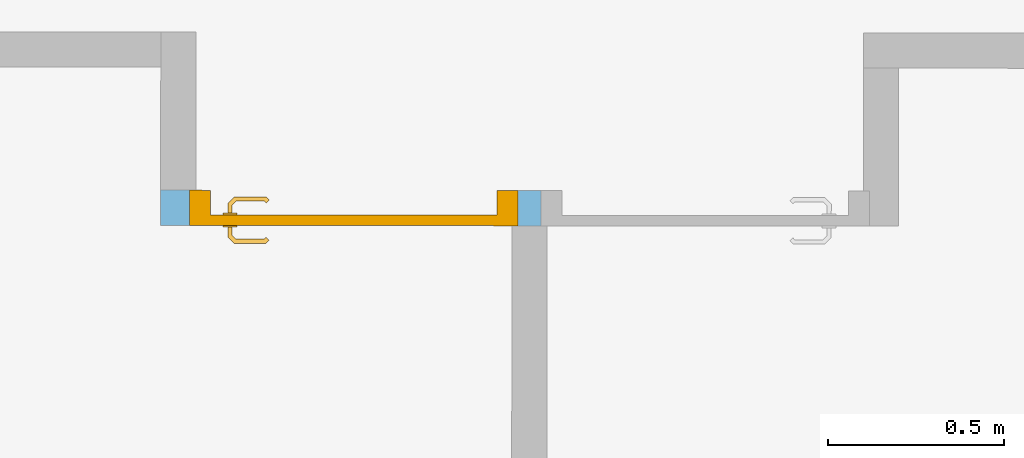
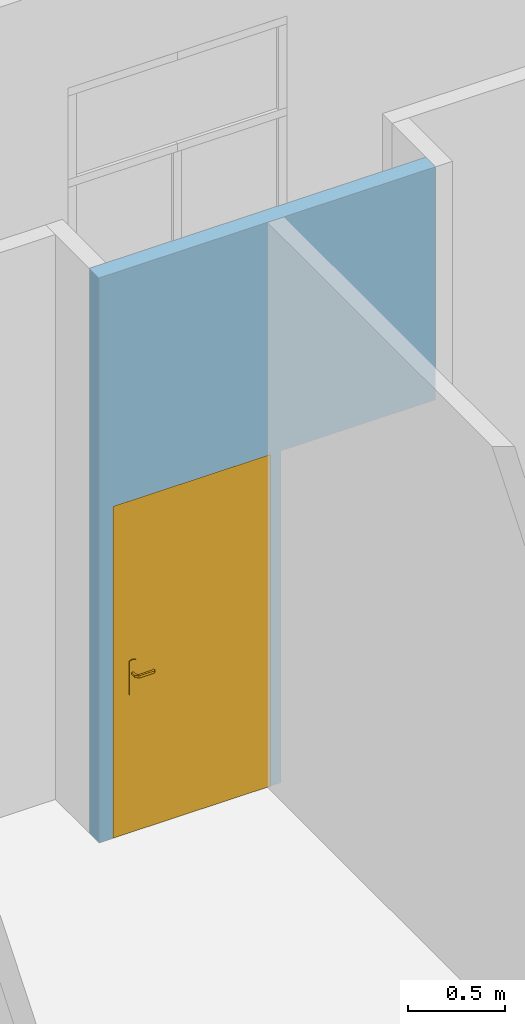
# One storey, part 57 of 101: 1 door, 2 openings, plus 1 element that does not belong to this part.
"""IFC2X3 building model written with IfcOpenShell, lengths in metres."""

from ifc_helpers import new_model, entity, si_unit, converted_unit, derived_unit, direction, frame, frame_2d, origin, place, context, subcontext, project, spatial, rectangle, extrude, faceted_brep, source, transform, mapped, material, material_list, layer, layer_set, layer_usage, type_object, type_shapes, element, fill, save


model = new_model("IFC2X3")

# Units and contexts
model_context = context("Model", 3, precision=1e-05, world=origin(), true_north=direction((6.123233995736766e-17, 1.0)))
body_context = subcontext(model_context, "Body", "Model", "MODEL_VIEW")
ifc_project = project(units=[si_unit("LENGTHUNIT", "METRE"), si_unit("AREAUNIT", "SQUARE_METRE"), converted_unit("PLANEANGLEUNIT", "DEGREE", entity("IfcPlaneAngleMeasure", 0.017453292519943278), si_unit("PLANEANGLEUNIT", "RADIAN"), dimensions=[0, 0, 0, 0, 0, 0, 0]), derived_unit("THERMALTRANSMITTANCEUNIT", [(si_unit("MASSUNIT", "GRAM", prefix="KILO"), 1), (si_unit("THERMODYNAMICTEMPERATUREUNIT", "KELVIN"), -1), (si_unit("TIMEUNIT", "SECOND"), -3)])], contexts=[model_context])

# Site, building, storey
site_placement = place(None, frame((1253.6752467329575, 2072.143113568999, 91.49999999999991), z_axis=(0.0, 0.0, 1.0), x_axis=(0.7237211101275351, 0.6900925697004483, 0.0)))
site = spatial("IfcSite", under=ifc_project, at=site_placement, Name="Surface", CompositionType="ELEMENT")
building_placement = place(site_placement, origin())
building = spatial("IfcBuilding", under=site, at=building_placement, CompositionType="ELEMENT")
storey_placement = place(building_placement, origin())
storey = spatial("IfcBuildingStorey", under=building, at=storey_placement, Name="0- Rdc", CompositionType="ELEMENT", Elevation=-5.764692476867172e-13)

# Wall, openings, door
ifc_material_1 = material(Name="OMD_Béton blanc")
ifc_layer = layer(ifc_material_1, 0.1)
ifc_layer_set = layer_set([ifc_layer], Name="Mur de base:MUR 10")
ifc_layer_usage = layer_usage(ifc_layer_set, "AXIS2", "NEGATIVE", 0.05)
wall_type = type_object("IfcWallType", Name="Mur de base:MUR 10", PredefinedType="STANDARD", material=ifc_layer_set)
wall_placement = place(storey_placement, frame((164.58165461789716, -6.8876795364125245, 0.0), z_axis=(0.0, 0.0, 1.0), x_axis=(0.7228702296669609, -0.6909838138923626, 0.0)))
wall = element("IfcWallStandardCase", 1, at=wall_placement, inside=storey, type_object=wall_type, material=ifc_layer_usage, Name="Mur de base:MUR 10", ObjectType="Mur de base:MUR 10", context=body_context, shape_type="SweptSolid", body=[
    extrude(rectangle(XDim=2.00000000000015, YDim=0.10000000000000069, at=frame_2d((1.000000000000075, -3.635980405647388e-15), x_axis=(-1.0, 0.0))), origin(), (0.0, 0.0, 1.0), 3.5499999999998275),
])
opening_1_placement = place(wall_placement, frame((2.017500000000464, 0.050000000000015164, 0.0)))
element("IfcOpeningElement", 2, at=opening_1_placement, cuts=wall, Name="OMD_Porte 1V tunnel:80x204:1", ObjectType="Opening", context=body_context, shape_type="SweptSolid", body=[
    extrude(rectangle(XDim=2.0850000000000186, YDim=0.9349999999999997, at=frame_2d((1.0425000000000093, 0.46750000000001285), x_axis=(1.0, 0.0))), frame((0.0, 0.0, 0.0), z_axis=(0.0, -1.0, 0.0), x_axis=(0.0, 0.0, 1.0)), (0.0, 0.0, 1.0), 0.1),
])
opening_2_placement = place(wall_placement, frame((1.0175000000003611, 0.050000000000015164, 0.0)))
opening_2 = element("IfcOpeningElement", 3, at=opening_2_placement, cuts=wall, Name="OMD_Porte 1V tunnel:80x204:1", ObjectType="Opening", context=body_context, shape_type="SweptSolid", body=[
    extrude(rectangle(XDim=2.0850000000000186, YDim=0.9349999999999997, at=frame_2d((1.0425000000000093, 0.46749999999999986), x_axis=(1.0, 0.0))), frame((0.0, 0.0, 0.0), z_axis=(0.0, -1.0, 0.0), x_axis=(0.0, 0.0, 1.0)), (0.0, 0.0, 1.0), 0.1),
])
ifc_material_2 = material(Name="Porte - Poignée")
ifc_material_3 = material(Name="OMD_Peinture mur")
ifc_material_4 = material(Name="OMD_Bois")
ifc_material_list = material_list([ifc_material_2, ifc_material_3, ifc_material_4])
door_style = type_object("IfcDoorStyle", Name="OMD_Porte 1V tunnel:80x204", ConstructionType="NOTDEFINED", OperationType="NOTDEFINED", ParameterTakesPrecedence=False, Sizeable=False, material=ifc_material_list)
shared_shape = source(origin(), body_context, "Body", "Brep", [
    faceted_brep([(0.21297470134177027, 0.03500000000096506, 1.0077804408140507), (0.20900000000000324, 0.03500000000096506, 1.0069999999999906), (0.208999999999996, 0.03500000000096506, 0.9929999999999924), (0.21297470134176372, 0.03500000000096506, 0.9922195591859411), (0.21702529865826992, 0.03500000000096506, 0.9922195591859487), (0.22100000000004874, 0.03500000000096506, 0.9930000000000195), (0.22100000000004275, 0.03500000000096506, 1.0069999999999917), (0.2170252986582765, 0.03500000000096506, 1.007780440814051), (0.22100000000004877, 0.05748520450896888, 0.9930000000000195), (0.22100000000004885, 0.057485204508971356, 1.0069999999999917), (0.21702529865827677, 0.059131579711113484, 1.007780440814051), (0.23083890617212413, 0.07294518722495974, 1.007780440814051), (0.2291610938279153, 0.07699578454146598, 1.0077804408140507), (0.21297470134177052, 0.060809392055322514, 1.0077804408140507), (0.3206847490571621, 0.0664673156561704, 1.0077804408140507), (0.32354895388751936, 0.06933152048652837, 1.0077804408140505), (0.31588468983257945, 0.07699578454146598, 1.0077804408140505), (0.31420687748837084, 0.07294518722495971, 1.0077804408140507), (0.20900000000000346, 0.06245576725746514, 1.0069999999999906), (0.20900000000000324, 0.06245576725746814, 0.9929999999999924), (0.21297470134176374, 0.06080939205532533, 0.9922195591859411), (0.22916109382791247, 0.07699578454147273, 0.9922195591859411), (0.23083890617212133, 0.07294518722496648, 0.9922195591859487), (0.21702529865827, 0.05913157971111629, 0.9922195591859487), (0.32354895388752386, 0.06933152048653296, 0.9922195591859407), (0.3206847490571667, 0.06646731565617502, 0.9922195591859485), (0.3142068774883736, 0.07294518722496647, 0.9922195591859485), (0.3158846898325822, 0.07699578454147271, 0.9922195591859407), (0.23248528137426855, 0.0689704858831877, 0.9930000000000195), (0.23248528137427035, 0.06897048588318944, 1.0069999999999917), (0.22751471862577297, 0.0809704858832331, 1.0069999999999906), (0.22751471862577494, 0.08097048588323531, 0.9929999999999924), (0.2725228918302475, 0.06897048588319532, 0.9930000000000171), (0.3125605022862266, 0.06897048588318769, 0.9930000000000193), (0.31256050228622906, 0.06897048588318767, 1.0069999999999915), (0.2725228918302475, 0.0689704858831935, 1.0069999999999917), (0.2725228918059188, 0.07512492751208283, 1.0078781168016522), (0.31753106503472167, 0.08097048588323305, 1.0069999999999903), (0.2776005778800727, 0.08097048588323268, 1.0069999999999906), (0.31753106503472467, 0.08097048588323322, 0.9929999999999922), (0.2674452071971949, 0.08097048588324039, 0.9929999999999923), (0.2725228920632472, 0.07512492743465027, 0.9921218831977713), (0.317874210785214, 0.06365677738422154, 0.9930000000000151), (0.32635949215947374, 0.07214205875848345, 0.99299999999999), (0.3263594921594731, 0.07214205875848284, 1.0069999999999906), (0.317874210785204, 0.06365677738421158, 1.0069999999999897)], [[[0, 1, 2, 3, 4, 5, 6, 7]], [[6, 5, 8, 9]], [[9, 10, 7, 6]], [[10, 11, 12, 13, 0, 7]], [[14, 15, 16, 17]], [[13, 18, 1, 0]], [[2, 1, 18, 19]], [[19, 20, 3, 2]], [[20, 21, 22, 23, 4, 3]], [[24, 25, 26, 27]], [[23, 8, 5, 4]], [[9, 8, 28, 29]], [[29, 11, 10, 9]], [[12, 30, 18, 13]], [[19, 18, 30, 31]], [[31, 21, 20, 19]], [[22, 28, 8, 23]], [[29, 28, 32, 33, 34, 35]], [[11, 35, 36]], [[16, 37, 38]], [[30, 12, 38]], [[38, 12, 36]], [[36, 35, 17]], [[17, 16, 36]], [[35, 11, 29]], [[34, 17, 35]], [[11, 36, 12]], [[38, 36, 16]], [[31, 30, 38, 37, 39, 40]], [[40, 41, 21]], [[41, 40, 27]], [[21, 31, 40]], [[39, 27, 40]], [[41, 32, 22]], [[22, 21, 41]], [[26, 32, 41]], [[28, 22, 32]], [[32, 26, 33]], [[26, 41, 27]], [[42, 25, 24, 43, 44, 15, 14, 45]], [[34, 33, 42, 45]], [[45, 14, 17, 34]], [[15, 44, 37, 16]], [[39, 37, 44, 43]], [[43, 24, 27, 39]], [[25, 42, 33, 26]]]),
    faceted_brep([(0.21297470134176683, -0.004999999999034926, 1.0077804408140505), (0.2170252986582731, -0.004999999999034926, 1.007780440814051), (0.2210000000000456, -0.004999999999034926, 1.006999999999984), (0.22100000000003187, -0.004999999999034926, 0.9930000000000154), (0.21702529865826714, -0.004999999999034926, 0.9922195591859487), (0.21297470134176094, -0.004999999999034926, 0.992219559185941), (0.20900000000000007, -0.004999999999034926, 0.992999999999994), (0.20900000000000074, -0.004999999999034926, 1.0069999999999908), (0.20900000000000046, -0.03265095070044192, 1.0069999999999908), (0.21297470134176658, -0.03100457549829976, 1.0077804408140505), (0.22902358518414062, -0.04705345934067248, 1.0077804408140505), (0.2307013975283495, -0.04300286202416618, 1.007780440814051), (0.21702529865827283, -0.02932676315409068, 1.007780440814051), (0.3235218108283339, -0.039389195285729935, 1.0077804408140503), (0.3206576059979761, -0.03652499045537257, 1.0077804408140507), (0.3141797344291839, -0.04300286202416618, 1.0077804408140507), (0.31585754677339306, -0.04705345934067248, 1.0077804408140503), (0.22100000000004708, -0.027680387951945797, 1.0069999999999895), (0.22100000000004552, -0.02768038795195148, 0.9930000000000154), (0.21702529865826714, -0.029326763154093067, 0.9922195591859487), (0.23070139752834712, -0.04300286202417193, 0.9922195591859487), (0.2290235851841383, -0.0470534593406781, 0.992219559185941), (0.21297470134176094, -0.031004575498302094, 0.992219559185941), (0.32065760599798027, -0.036524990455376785, 0.9922195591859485), (0.3235218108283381, -0.03938919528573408, 0.9922195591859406), (0.31585754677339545, -0.047053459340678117, 0.9922195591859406), (0.3141797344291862, -0.04300286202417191, 0.9922195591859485), (0.20899999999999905, -0.032650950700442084, 0.9929999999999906), (0.22737720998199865, -0.051028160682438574, 1.0069999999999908), (0.23234777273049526, -0.03902816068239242, 1.0069999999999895), (0.23234777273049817, -0.03902816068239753, 0.9930000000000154), (0.22737720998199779, -0.051028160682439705, 0.9929999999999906), (0.2673076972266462, -0.05102816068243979, 1.0069999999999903), (0.272440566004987, -0.0451828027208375, 1.0078781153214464), (0.3175039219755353, -0.05102816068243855, 1.0069999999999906), (0.27244056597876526, -0.039028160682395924, 1.0069999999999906), (0.3125333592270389, -0.03902816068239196, 1.0069999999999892), (0.31253335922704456, -0.03902816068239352, 0.9930000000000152), (0.27244056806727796, -0.03902816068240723, 0.9930000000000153), (0.27244056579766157, -0.04518280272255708, 0.9921218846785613), (0.3175039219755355, -0.051028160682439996, 0.9929999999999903), (0.27757344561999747, -0.051028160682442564, 0.9929999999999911), (0.3178470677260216, -0.03371445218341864, 1.0069999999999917), (0.3263323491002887, -0.04219973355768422, 1.0069999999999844), (0.3263323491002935, -0.04219973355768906, 0.9929999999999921), (0.31784706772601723, -0.033714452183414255, 0.9930000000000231)], [[[0, 1, 2, 3, 4, 5, 6, 7]], [[8, 9, 0, 7]], [[9, 10, 11, 12, 1, 0]], [[13, 14, 15, 16]], [[12, 17, 2, 1]], [[3, 2, 17, 18]], [[18, 19, 4, 3]], [[19, 20, 21, 22, 5, 4]], [[23, 24, 25, 26]], [[22, 27, 6, 5]], [[7, 6, 27, 8]], [[28, 10, 9, 8]], [[11, 29, 17, 12]], [[18, 17, 29, 30]], [[30, 20, 19, 18]], [[21, 31, 27, 22]], [[8, 27, 31, 28]], [[32, 33, 10]], [[33, 32, 16]], [[10, 28, 32]], [[34, 16, 32]], [[33, 35, 11]], [[11, 10, 33]], [[15, 35, 33]], [[29, 11, 35]], [[35, 15, 36]], [[15, 33, 16]], [[30, 29, 35, 36, 37, 38]], [[20, 38, 39]], [[25, 40, 41]], [[31, 21, 41]], [[41, 21, 39]], [[39, 38, 26]], [[26, 25, 39]], [[38, 20, 30]], [[37, 26, 38]], [[20, 39, 21]], [[41, 39, 25]], [[28, 31, 41, 40, 34, 32]], [[42, 14, 13, 43, 44, 24, 23, 45]], [[43, 13, 16, 34]], [[14, 42, 36, 15]], [[37, 36, 42, 45]], [[45, 23, 26, 37]], [[24, 44, 40, 25]], [[34, 40, 44, 43]]]),
    faceted_brep([(0.22535276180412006, 0.030000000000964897, 0.8660039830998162), (0.2350000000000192, 0.030000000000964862, 0.8700000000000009), (0.2350000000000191, 0.030000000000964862, 1.0800000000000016), (0.2253527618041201, 0.030000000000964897, 1.0839960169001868), (0.21500000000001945, 0.030000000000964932, 1.0853589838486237), (0.20464723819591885, 0.03000000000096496, 1.0839960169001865), (0.19500000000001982, 0.030000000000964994, 1.0800000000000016), (0.19500000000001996, 0.030000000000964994, 0.8700000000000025), (0.20464723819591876, 0.03000000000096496, 0.866003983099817), (0.21500000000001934, 0.030000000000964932, 0.8646410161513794), (0.22535276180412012, 0.0350000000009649, 1.0839960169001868), (0.2350000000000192, 0.03500000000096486, 1.0800000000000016), (0.23500000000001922, 0.03500000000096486, 0.8700000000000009), (0.22535276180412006, 0.0350000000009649, 0.8660039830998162), (0.21500000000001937, 0.03500000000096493, 0.8646410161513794), (0.20464723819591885, 0.03500000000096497, 0.866003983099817), (0.19500000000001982, 0.035000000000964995, 0.8700000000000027), (0.19500000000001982, 0.035000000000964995, 1.0800000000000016), (0.20464723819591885, 0.03500000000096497, 1.0839960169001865), (0.21500000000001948, 0.03500000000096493, 1.0853589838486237)], [[[0, 1, 2, 3, 4, 5, 6, 7, 8, 9]], [[10, 11, 12, 13, 14, 15, 16, 17, 18, 19]], [[11, 10, 3, 2]], [[3, 10, 19, 4]], [[19, 18, 5, 4]], [[18, 17, 6, 5]], [[7, 6, 17, 16]], [[16, 15, 8, 7]], [[8, 15, 14, 9]], [[14, 13, 0, 9]], [[13, 12, 1, 0]], [[2, 1, 12, 11]]]),
    faceted_brep([(0.22535276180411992, -0.004999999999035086, 0.8660039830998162), (0.2350000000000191, -0.004999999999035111, 0.8700000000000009), (0.23500000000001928, -0.004999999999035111, 1.0800000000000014), (0.22535276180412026, -0.004999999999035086, 1.0839960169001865), (0.2150000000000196, -0.004999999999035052, 1.0853589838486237), (0.20464723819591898, -0.0049999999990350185, 1.0839960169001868), (0.19500000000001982, -0.004999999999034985, 1.0800000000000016), (0.19500000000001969, -0.004999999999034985, 0.8700000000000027), (0.20464723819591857, -0.0049999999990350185, 0.8660039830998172), (0.21500000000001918, -0.004999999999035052, 0.8646410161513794), (0.22535276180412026, 0.0, 1.0839960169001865), (0.2350000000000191, 0.0, 1.0800000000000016), (0.2350000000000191, 0.0, 0.8700000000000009), (0.22535276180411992, 0.0, 0.8660039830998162), (0.21500000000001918, 0.0, 0.8646410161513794), (0.20464723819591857, 0.0, 0.8660039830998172), (0.19500000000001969, 0.0, 0.8700000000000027), (0.19500000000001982, 0.0, 1.0800000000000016), (0.20464723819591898, 0.0, 1.0839960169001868), (0.2150000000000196, 0.0, 1.0853589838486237)], [[[0, 1, 2, 3, 4, 5, 6, 7, 8, 9]], [[10, 11, 12, 13, 14, 15, 16, 17, 18, 19]], [[16, 15, 8, 7]], [[8, 15, 14, 9]], [[14, 13, 0, 9]], [[13, 12, 1, 0]], [[2, 1, 12, 11]], [[11, 10, 3, 2]], [[3, 10, 19, 4]], [[19, 18, 5, 4]], [[18, 17, 6, 5]], [[7, 6, 17, 16]]]),
    faceted_brep([(0.14500000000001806, 0.030000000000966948, 0.0), (0.9900000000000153, 0.030000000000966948, 0.0), (0.9900000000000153, 0.0, 0.0), (0.14500000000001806, 0.0, 0.0), (0.14500000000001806, 0.030000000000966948, 2.04), (0.14500000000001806, 0.0, 2.04), (0.9900000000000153, 0.0, 2.04), (0.9900000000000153, 0.030000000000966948, 2.04)], [[[0, 1, 2, 3]], [[4, 0, 3, 5]], [[5, 3, 2, 6]], [[6, 2, 1, 7]], [[7, 1, 0, 4]], [[4, 5, 6, 7]]]),
    faceted_brep([(0.10000000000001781, 0.0, 0.0), (0.10000000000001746, 0.10000000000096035, 0.0), (0.16000000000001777, 0.10000000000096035, 0.0), (0.16000000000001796, 0.03000000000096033, 0.0), (0.145000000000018, 0.03000000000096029, 0.0), (0.14500000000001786, 0.0, 0.0), (0.145000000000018, 0.0, 2.04), (0.9900000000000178, 0.0, 2.0400000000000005), (0.9900000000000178, 0.0, 0.0), (1.0350000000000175, 0.0, 0.0), (1.0350000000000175, 0.0, 2.085), (0.10000000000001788, 0.0, 2.085), (0.14500000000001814, 0.030000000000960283, 2.04), (0.16000000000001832, 0.03000000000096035, 2.0249999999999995), (0.9750000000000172, 0.03000000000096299, 2.0249999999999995), (0.9750000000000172, 0.03000000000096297, 0.0), (0.9900000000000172, 0.03000000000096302, 0.0), (0.9900000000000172, 0.03000000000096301, 2.0399999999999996), (0.16000000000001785, 0.10000000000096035, 2.0249999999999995), (0.1000000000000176, 0.10000000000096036, 2.085), (1.0350000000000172, 0.10000000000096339, 2.085), (1.0350000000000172, 0.10000000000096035, 0.0), (0.9750000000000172, 0.10000000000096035, 0.0), (0.9750000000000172, 0.10000000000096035, 2.025)], [[[0, 1, 2, 3, 4, 5]], [[5, 6, 7, 8, 9, 10, 11, 0]], [[4, 12, 6, 5]], [[3, 13, 14, 15, 16, 17, 12, 4]], [[2, 18, 13, 3]], [[1, 19, 20, 21, 22, 23, 18, 2]], [[0, 11, 19, 1]], [[10, 9, 21, 20]], [[9, 8, 16, 15, 22, 21]], [[17, 16, 8, 7]], [[23, 22, 15, 14]], [[12, 17, 7, 6]], [[18, 23, 14, 13]], [[11, 10, 20, 19]]]),
])
type_shapes(door_style, [shared_shape])
door_placement = place(opening_2_placement, frame((-1.0350000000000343, -0.10000000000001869, 0.0)))
door = element("IfcDoor", 4, at=door_placement, inside=storey, type_object=door_style, material=ifc_material_list, Name="OMD_Porte 1V tunnel:80x204", ObjectType="OMD_Porte 1V tunnel:80x204", OverallHeight=2.0850000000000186, OverallWidth=0.9349999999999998, context=body_context, shape_type="MappedRepresentation", body=[
    mapped(shared_shape, transform((0.0, 0.0, 0.0), scale=1.0)),
])
fill(opening_2, door)

save(model, "model.ifc")
